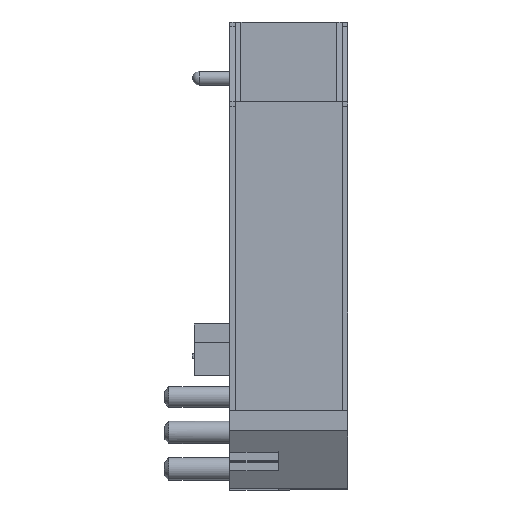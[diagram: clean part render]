
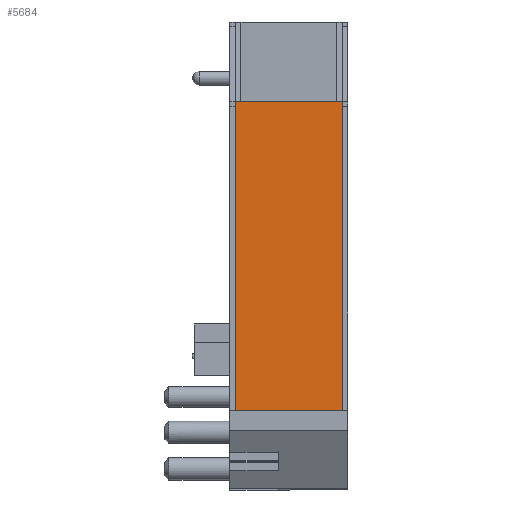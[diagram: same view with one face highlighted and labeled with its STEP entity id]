
A CAD part, front view. The second image highlights one B-rep face of the part: STEP entity #5684.
In plain terms, the highlighted planar face has unit normal (0, -1, 0).
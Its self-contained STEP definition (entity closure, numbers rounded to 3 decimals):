
#525=CARTESIAN_POINT('',(0.8,-92.714,8.5));
#526=VERTEX_POINT('',#525);
#533=CARTESIAN_POINT('',(-10.6,-92.714,8.5));
#534=VERTEX_POINT('',#533);
#535=CARTESIAN_POINT('',(-10.6,-92.714,8.5));
#536=DIRECTION('',(1.0,0.0,0.0));
#537=VECTOR('',#536,11.4);
#538=LINE('',#535,#537);
#539=EDGE_CURVE('',#534,#526,#538,.T.);
#5654=CARTESIAN_POINT('',(-11.2,-92.714,8.5));
#5655=DIRECTION('',(0.0,-1.0,0.0));
#5656=DIRECTION('',(1.0,0.0,0.0));
#5657=AXIS2_PLACEMENT_3D('',#5654,#5655,#5656);
#5658=PLANE('',#5657);
#5659=CARTESIAN_POINT('',(0.8,-92.714,41.4));
#5660=VERTEX_POINT('',#5659);
#5661=CARTESIAN_POINT('',(0.8,-92.714,8.5));
#5662=DIRECTION('',(0.0,0.0,1.0));
#5663=VECTOR('',#5662,32.9);
#5664=LINE('',#5661,#5663);
#5665=EDGE_CURVE('',#526,#5660,#5664,.T.);
#5666=ORIENTED_EDGE('',*,*,#5665,.T.);
#5667=CARTESIAN_POINT('',(-10.6,-92.714,41.4));
#5668=VERTEX_POINT('',#5667);
#5669=CARTESIAN_POINT('',(-10.6,-92.714,41.4));
#5670=DIRECTION('',(1.0,0.0,0.0));
#5671=VECTOR('',#5670,11.4);
#5672=LINE('',#5669,#5671);
#5673=EDGE_CURVE('',#5668,#5660,#5672,.T.);
#5674=ORIENTED_EDGE('',*,*,#5673,.F.);
#5675=CARTESIAN_POINT('',(-10.6,-92.714,41.4));
#5676=DIRECTION('',(0.0,0.0,-1.0));
#5677=VECTOR('',#5676,32.9);
#5678=LINE('',#5675,#5677);
#5679=EDGE_CURVE('',#5668,#534,#5678,.T.);
#5680=ORIENTED_EDGE('',*,*,#5679,.T.);
#5681=ORIENTED_EDGE('',*,*,#539,.T.);
#5682=EDGE_LOOP('',(#5666,#5674,#5680,#5681));
#5683=FACE_OUTER_BOUND('',#5682,.T.);
#5684=ADVANCED_FACE('',(#5683),#5658,.T.);
